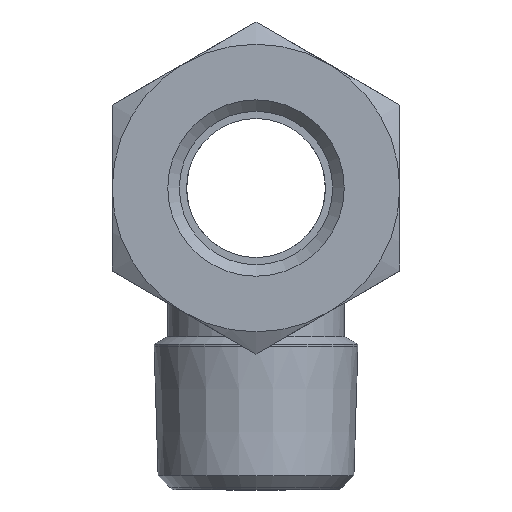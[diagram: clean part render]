
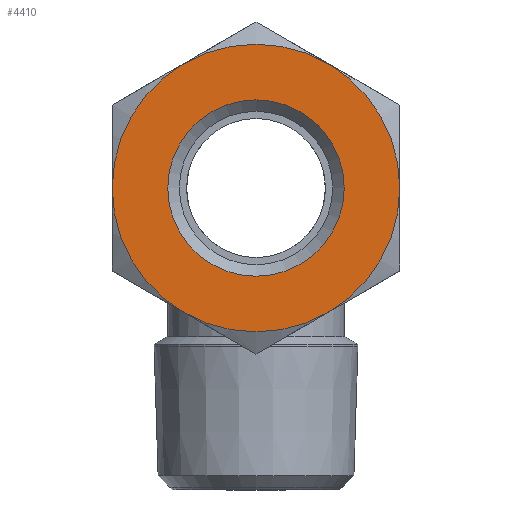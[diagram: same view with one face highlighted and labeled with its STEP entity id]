
A CAD part, left-side view. The second image highlights one B-rep face of the part: STEP entity #4410.
In plain terms, the highlighted planar face has unit normal (-1, 0, 0).
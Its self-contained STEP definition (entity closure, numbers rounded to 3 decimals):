
#4410=ADVANCED_FACE('', (#4420,#4430), #4440, .T.);
#14100=AXIS2_PLACEMENT_3D('Ax2Pl3d', #14110, #14120, #14130);
#14140=AXIS2_PLACEMENT_3D('Ax2Pl3d', #14150, #14160, #14170);
#14180=AXIS2_PLACEMENT_3D('Ax2Pl3d', #14190, #14200, #14210);
#14220=AXIS2_PLACEMENT_3D('Ax2Pl3d', #14230, #14240, #14250);
#14260=AXIS2_PLACEMENT_3D('Ax2Pl3d', #14270, #14280, #14290);
#14300=AXIS2_PLACEMENT_3D('Ax2Pl3d', #14310, #14320, #14330);
#14340=AXIS2_PLACEMENT_3D('Ax2Pl3d', #14350, #14360, #14370);
#14380=AXIS2_PLACEMENT_3D('Ax2Pl3d', #14390, #14400, #14410);
#58360=CARTESIAN_POINT('', (0.082,27.163,29.31)
);
#58440=CARTESIAN_POINT('', (0.082,34.663,42.301)
);
#58450=CARTESIAN_POINT('', (0.082,27.163,
55.291));
#58480=CARTESIAN_POINT('', (0.082,12.163,55.291)
);
#58510=CARTESIAN_POINT('', (0.082,4.663,
42.301));
#58540=CARTESIAN_POINT('', (0.082,12.163,29.31)
);
#14110=CARTESIAN_POINT('HicPkt', (0.082,19.663,
42.301));
#14150=CARTESIAN_POINT('HicPkt', (0.082,4.663,
42.301));
#14190=CARTESIAN_POINT('HicPkt', (0.082,19.663,
42.301));
#14230=CARTESIAN_POINT('HicPkt', (0.082,19.663,
42.301));
#14270=CARTESIAN_POINT('HicPkt', (0.082,19.663,
42.301));
#14310=CARTESIAN_POINT('HicPkt', (0.082,19.663,
42.301));
#14350=CARTESIAN_POINT('HicPkt', (0.082,19.663,
42.301));
#14390=CARTESIAN_POINT('HicPkt', (0.082,19.663,
42.301));
#58550=CARTESIAN_POINT('', (0.082,28.863,42.301)
);
#59530=CIRCLE('Circle', #14100, 15.);
#59540=CIRCLE('Circle', #14180, 15.);
#59550=CIRCLE('Circle', #14220, 15.);
#59560=CIRCLE('Circle', #14260, 15.);
#59570=CIRCLE('Circle', #14300, 15.);
#59580=CIRCLE('Circle', #14340, 15.);
#59590=CIRCLE('Circle', #14380, 9.2);
#14120=DIRECTION('Axis', (1.,0.,0.));
#14130=DIRECTION('RefDirection', (0.,-0.,-1.));
#14160=DIRECTION('Axis', (-1.,0.,0.)
);
#14170=DIRECTION('RefDirection', (0.,
0.,-1.));
#14200=DIRECTION('Axis', (1.,0.,0.));
#14210=DIRECTION('RefDirection', (0.,-0.,-1.));
#14240=DIRECTION('Axis', (1.,0.,0.));
#14250=DIRECTION('RefDirection', (0.,-0.,-1.));
#14280=DIRECTION('Axis', (1.,0.,0.));
#14290=DIRECTION('RefDirection', (0.,-0.,-1.));
#14320=DIRECTION('Axis', (1.,0.,0.));
#14330=DIRECTION('RefDirection', (0.,-0.,-1.));
#14360=DIRECTION('Axis', (1.,0.,0.));
#14370=DIRECTION('RefDirection', (0.,-0.,-1.));
#14400=DIRECTION('Axis', (1.,0.,0.));
#14410=DIRECTION('RefDirection', (0.,-0.,-1.));
#72150=EDGE_CURVE('', #72070, #72130, #59530, .T.);
#72160=EDGE_CURVE('', #72010, #72070, #59540, .T.);
#72170=EDGE_CURVE('', #71950, #72010, #59550, .T.);
#72180=EDGE_CURVE('', #71920, #71950, #59560, .T.);
#72190=EDGE_CURVE('', #71750, #71920, #59570, .T.);
#72200=EDGE_CURVE('', #72130, #71750, #59580, .T.);
#72210=EDGE_CURVE('', #72220, #72220, #59590, .T.);
#78500=EDGE_LOOP('Edge_loop', (#78510,#78520,#78530,#78540,#78550,
#78560));
#78570=EDGE_LOOP('Edge_loop', (#78580));
#4430=FACE_BOUND('', #78570, .T.);
#4420=FACE_OUTER_BOUND('Face_outer_bound', #78500, .T.);
#78510=ORIENTED_EDGE('', *, *, #72150, .F.);
#78520=ORIENTED_EDGE('', *, *, #72160, .F.);
#78530=ORIENTED_EDGE('', *, *, #72170, .F.);
#78540=ORIENTED_EDGE('', *, *, #72180, .F.);
#78550=ORIENTED_EDGE('', *, *, #72190, .F.);
#78560=ORIENTED_EDGE('', *, *, #72200, .F.);
#78580=ORIENTED_EDGE('', *, *, #72210, .T.);
#4440=PLANE('Plane', #14140);
#71750=VERTEX_POINT('', #58360);
#71920=VERTEX_POINT('', #58440);
#71950=VERTEX_POINT('', #58450);
#72010=VERTEX_POINT('', #58480);
#72070=VERTEX_POINT('', #58510);
#72130=VERTEX_POINT('', #58540);
#72220=VERTEX_POINT('', #58550);
